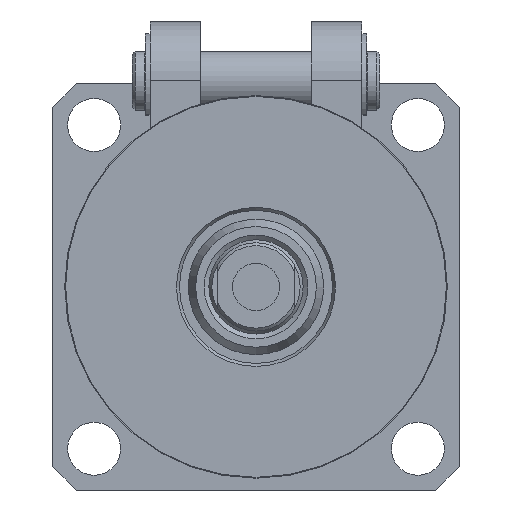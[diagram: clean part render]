
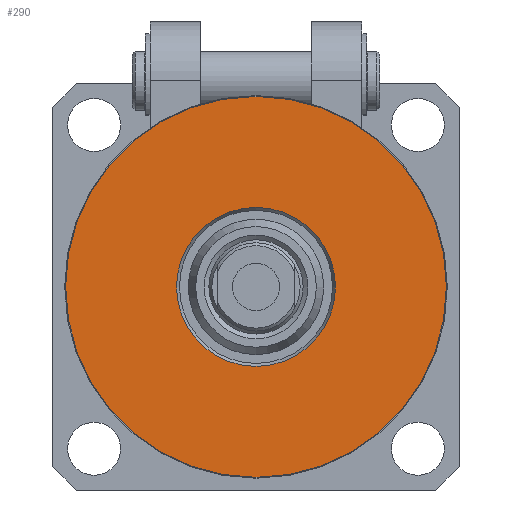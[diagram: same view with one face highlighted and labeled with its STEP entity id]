
A CAD part, front view. The second image highlights one B-rep face of the part: STEP entity #290.
In plain terms, the highlighted planar face has unit normal (0, -1, 0).
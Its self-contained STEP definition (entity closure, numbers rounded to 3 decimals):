
#290 = ADVANCED_FACE( '', ( #593, #594 ), #595, .T. );
#593 = FACE_OUTER_BOUND( '', #1269, .T. );
#594 = FACE_BOUND( '', #1270, .T. );
#595 = PLANE( '', #1271 );
#1269 = EDGE_LOOP( '', ( #2032 ) );
#1270 = EDGE_LOOP( '', ( #2033 ) );
#1271 = AXIS2_PLACEMENT_3D( '', #2034, #2035, #2036 );
#2032 = ORIENTED_EDGE( '', *, *, #4100, .T. );
#2033 = ORIENTED_EDGE( '', *, *, #4101, .F. );
#2034 = CARTESIAN_POINT( '', ( 0., -63.5, 0. ) );
#2035 = DIRECTION( '', ( 0., -1., 0. ) );
#2036 = DIRECTION( '', ( 1., 0., 0. ) );
#4100 = EDGE_CURVE( '', #4823, #4823, #4824, .T. );
#4101 = EDGE_CURVE( '', #4825, #4825, #4826, .T. );
#4823 = VERTEX_POINT( '', #5981 );
#4824 = CIRCLE( '', #5982, 32.35 );
#4825 = VERTEX_POINT( '', #5983 );
#4826 = CIRCLE( '', #5984, 13.5 );
#5981 = CARTESIAN_POINT( '', ( -32.35, -63.5, 0. ) );
#5982 = AXIS2_PLACEMENT_3D( '', #7462, #7463, #7464 );
#5983 = CARTESIAN_POINT( '', ( 0., -63.5, 13.5 ) );
#5984 = AXIS2_PLACEMENT_3D( '', #7465, #7466, #7467 );
#7462 = CARTESIAN_POINT( '', ( 0., -63.5, 0. ) );
#7463 = DIRECTION( '', ( 0., -1., 0. ) );
#7464 = DIRECTION( '', ( -1., 0., 0. ) );
#7465 = CARTESIAN_POINT( '', ( 0., -63.5, 0. ) );
#7466 = DIRECTION( '', ( 0., -1., 0. ) );
#7467 = DIRECTION( '', ( 0., 0., 1. ) );
